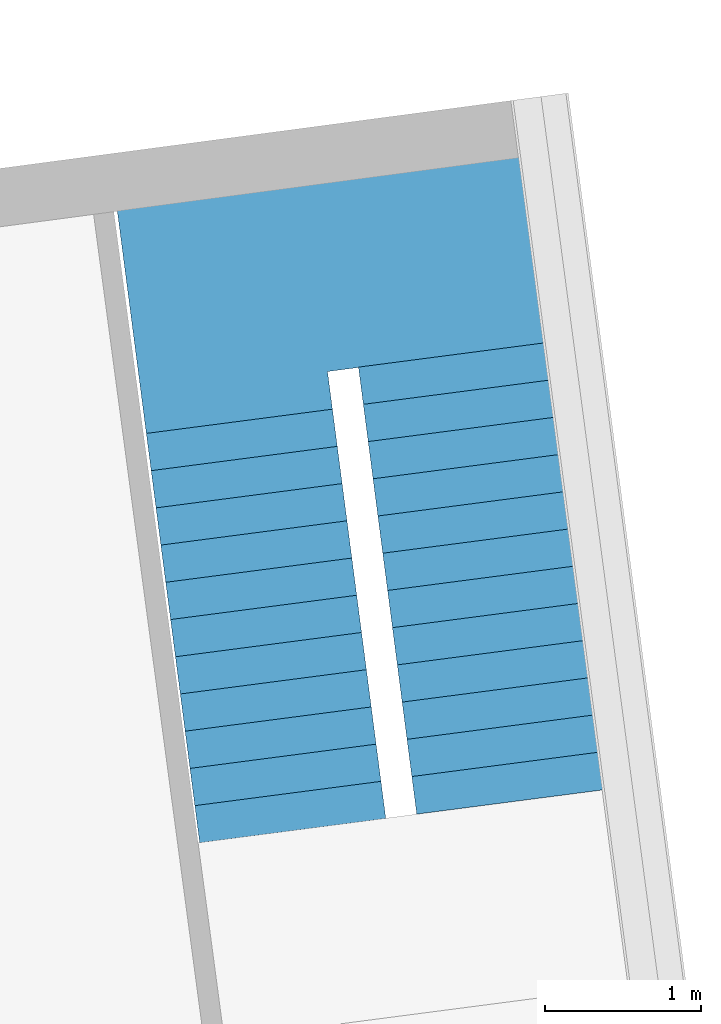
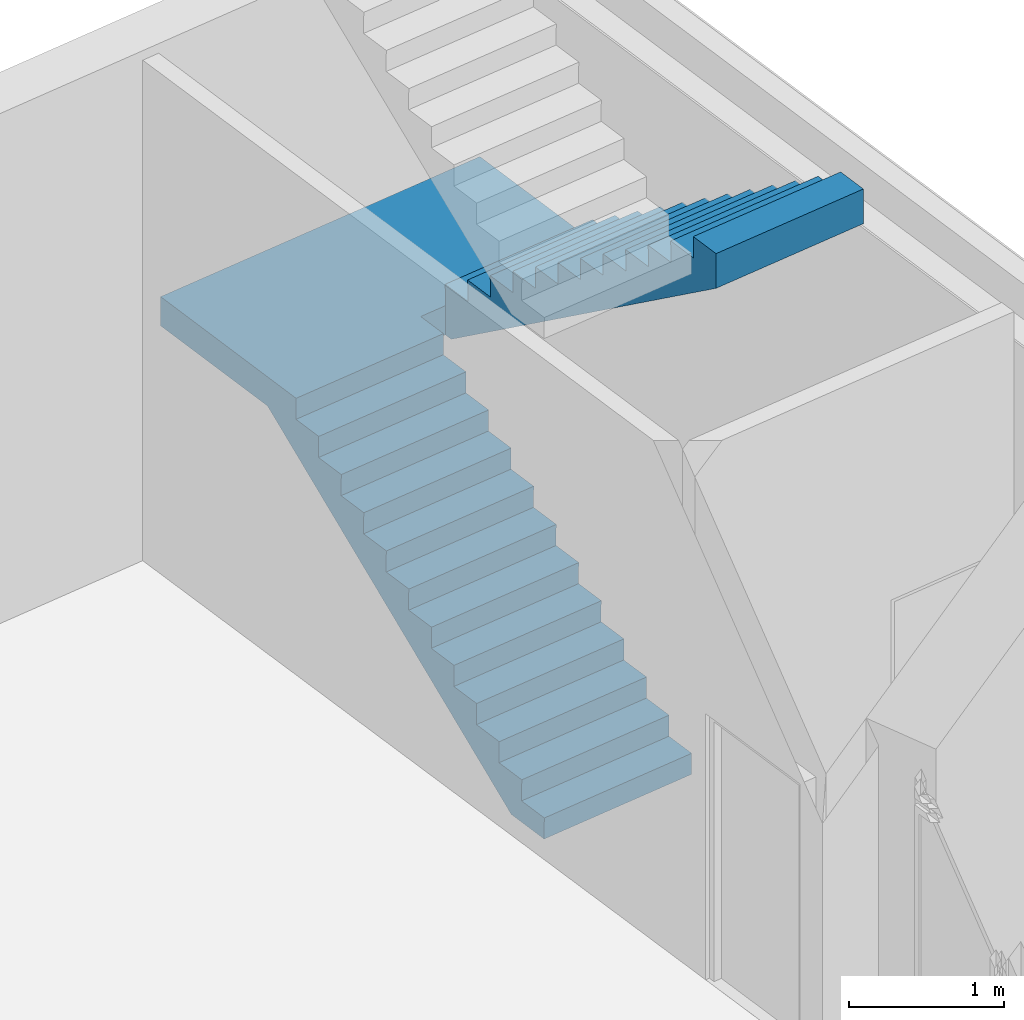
# One storey, part 15 of 17: 1 stair.
"""IFC2X3 building model written with IfcOpenShell, lengths in metres."""

from ifc_helpers import new_model, entity, si_unit, converted_unit, money_unit, direction, frame, origin_with_axes, place, context, subcontext, project, spatial, faceted_brep, material, element, save


model = new_model("IFC2X3")

# Units and contexts
model_context = context("Model", 3, precision=1e-05, world=origin_with_axes(), true_north=direction((0.0, 1.0)))
body_context = subcontext(model_context, "Body", "Model", "MODEL_VIEW")
ifc_project = project(units=[si_unit("LENGTHUNIT", "METRE"), si_unit("AREAUNIT", "SQUARE_METRE"), si_unit("VOLUMEUNIT", "CUBIC_METRE"), converted_unit("PLANEANGLEUNIT", "DEGREE", entity("IfcPlaneAngleMeasure", 0.0174532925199), si_unit("PLANEANGLEUNIT", "RADIAN"), dimensions=[0, 0, 0, 0, 0, 0, 0]), si_unit("SOLIDANGLEUNIT", "STERADIAN"), money_unit("EUR"), converted_unit("TIMEUNIT", "Year", entity("IfcTimeMeasure", 31556926.0), si_unit("TIMEUNIT", "SECOND"), dimensions=[0, 0, 0, 0, 0, 0, 0]), si_unit("MASSUNIT", "GRAM"), si_unit("THERMODYNAMICTEMPERATUREUNIT", "DEGREE_CELSIUS"), si_unit("LUMINOUSINTENSITYUNIT", "LUMEN")], contexts=[model_context])

# Site, building, storey
site_placement = place(None, origin_with_axes())
site = spatial("IfcSite", under=ifc_project, at=site_placement, Name="Undefined", CompositionType="ELEMENT")
building_placement = place(site_placement, origin_with_axes())
building = spatial("IfcBuilding", under=site, at=building_placement, Name="Undefined", CompositionType="ELEMENT")
storey_placement = place(building_placement, frame((0.0, 0.0, 9.425), z_axis=(0.0, 0.0, 1.0), x_axis=(1.0, 0.0, 0.0)))
storey = spatial("IfcBuildingStorey", under=building, at=storey_placement, Name="Mezzannine", CompositionType="ELEMENT", Elevation=9.425)

# Stair
ifc_material = material(Name="Concrete Block")
stair_placement = place(storey_placement, frame((64.973856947, 23.1091843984, 0.0), z_axis=(0.0, 0.0, 1.0), x_axis=(0.129312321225, -0.991603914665, 0.0)))
element("IfcStair", 1, at=stair_placement, inside=storey, material=ifc_material, Name="Stair_02", ObjectType="STAIR", ShapeType="NOTDEFINED", context=body_context, shape_type="Brep", body=[
    faceted_brep([(-0.349165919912, 0.0, 0.0), (-2.94295473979, 0.0, 1.7825), (-2.94295473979, 1.2, 1.7825), (-0.349165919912, 1.2, 0.0), (-0.02, 0.0, 0.0), (-0.02, 0.0, 0.137708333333), (-0.26, 0.0, 0.137708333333), (-0.26, 0.0, 0.305416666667), (-0.5, 0.0, 0.305416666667), (-0.5, 0.0, 0.473125), (-0.74, 0.0, 0.473125), (-0.74, 0.0, 0.640833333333), (-0.98, 0.0, 0.640833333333), (-0.98, 0.0, 0.808541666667), (-1.22, 0.0, 0.808541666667), (-1.22, 0.0, 0.97625), (-1.46, 0.0, 0.97625), (-1.46, 0.0, 1.14395833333), (-1.7, 0.0, 1.14395833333), (-1.7, 0.0, 1.31166666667), (-1.94, 0.0, 1.31166666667), (-1.94, 0.0, 1.479375), (-2.18, 0.0, 1.479375), (-2.18, 0.0, 1.64708333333), (-2.42, 0.0, 1.64708333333), (-2.42, 0.0, 1.81479166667), (-2.66, 0.0, 1.81479166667), (-2.66, 0.0, 1.9825), (-2.9, 0.0, 1.9825), (-4.08, 0.0, 1.9825), (-4.08, 0.0, 1.7825), (-4.08, 1.2, 1.7825), (-4.08, 1.2, 1.9825), (-2.9, 1.2, 1.9825), (-2.66, 1.2, 1.9825), (-2.66, 1.2, 1.81479166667), (-2.42, 1.2, 1.81479166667), (-2.42, 1.2, 1.64708333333), (-2.18, 1.2, 1.64708333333), (-2.18, 1.2, 1.479375), (-1.94, 1.2, 1.479375), (-1.94, 1.2, 1.31166666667), (-1.7, 1.2, 1.31166666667), (-1.7, 1.2, 1.14395833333), (-1.46, 1.2, 1.14395833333), (-1.46, 1.2, 0.97625), (-1.22, 1.2, 0.97625), (-1.22, 1.2, 0.808541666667), (-0.98, 1.2, 0.808541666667), (-0.98, 1.2, 0.640833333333), (-0.74, 1.2, 0.640833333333), (-0.74, 1.2, 0.473125), (-0.5, 1.2, 0.473125), (-0.5, 1.2, 0.305416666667), (-0.26, 1.2, 0.305416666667), (-0.26, 1.2, 0.137708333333), (-0.02, 1.2, 0.137708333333), (-0.02, 1.2, 0.0)], [[[0, 1, 2, 3]], [[0, 4, 5, 6, 7, 8, 9, 10, 11, 12, 13, 14, 15, 16, 17, 18, 19, 20, 21, 22, 23, 24, 25, 26, 27, 28, 29, 30, 1]], [[1, 30, 31, 2]], [[3, 2, 31, 32, 33, 34, 35, 36, 37, 38, 39, 40, 41, 42, 43, 44, 45, 46, 47, 48, 49, 50, 51, 52, 53, 54, 55, 56, 57]], [[4, 0, 3, 57]], [[5, 4, 57, 56]], [[6, 5, 56, 55]], [[7, 6, 55, 54]], [[8, 7, 54, 53]], [[9, 8, 53, 52]], [[10, 9, 52, 51]], [[11, 10, 51, 50]], [[12, 11, 50, 49]], [[13, 12, 49, 48]], [[14, 13, 48, 47]], [[15, 14, 47, 46]], [[16, 15, 46, 45]], [[17, 16, 45, 44]], [[18, 17, 44, 43]], [[19, 18, 43, 42]], [[20, 19, 42, 41]], [[21, 20, 41, 40]], [[22, 21, 40, 39]], [[23, 22, 39, 38]], [[24, 23, 38, 37]], [[25, 24, 37, 36]], [[26, 25, 36, 35]], [[27, 26, 35, 34]], [[28, 27, 34, 33]], [[29, 28, 33, 32]], [[30, 29, 32, 31]]]),
    faceted_brep([(-2.88, 1.2, 1.9825), (-2.88, 1.2, 1.7825), (-2.88, 1.4, 1.7825), (-2.88, 1.4, 1.9825), (-4.08, 1.2, 1.9825), (-4.08, 1.2, 1.7825), (-2.94295473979, 1.2, 1.7825), (-2.94295473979, 1.4, 1.7825), (-4.08, 1.4, 1.7825), (-4.08, 1.4, 1.9825)], [[[0, 1, 2, 3]], [[0, 4, 5, 6, 1]], [[1, 6, 7, 2]], [[3, 2, 7, 8, 9]], [[4, 0, 3, 9]], [[5, 4, 9, 8]], [[6, 5, 8, 7]]]),
    faceted_brep([(-2.88, 1.4, 1.9825), (-2.88, 1.4, 1.7825), (-2.88, 2.6, 1.7825), (-2.88, 2.6, 1.9825), (-4.08, 1.4, 1.9825), (-4.08, 1.4, 1.7825), (-4.08, 2.6, 1.7825), (-4.08, 2.6, 1.9825)], [[[0, 1, 2, 3]], [[0, 4, 5, 1]], [[1, 5, 6, 2]], [[3, 2, 6, 7]], [[4, 0, 3, 7]], [[5, 4, 7, 6]]]),
    faceted_brep([(-2.88, 1.4, 1.7825), (-2.88, 2.6, 1.7825), (-2.81704526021, 2.6, 1.7825), (-2.81704526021, 1.4, 1.7825), (-2.88, 1.4, 1.9825), (-2.88, 2.6, 1.9825), (-2.86, 2.6, 1.9825), (-2.86, 2.6, 2.15020833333), (-2.62, 2.6, 2.15020833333), (-2.62, 2.6, 2.31791666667), (-2.38, 2.6, 2.31791666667), (-2.38, 2.6, 2.485625), (-2.14, 2.6, 2.485625), (-2.14, 2.6, 2.65333333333), (-1.9, 2.6, 2.65333333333), (-1.9, 2.6, 2.82104166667), (-1.66, 2.6, 2.82104166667), (-1.66, 2.6, 2.98875), (-1.42, 2.6, 2.98875), (-1.42, 2.6, 3.15645833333), (-1.18, 2.6, 3.15645833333), (-1.18, 2.6, 3.32416666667), (-0.94, 2.6, 3.32416666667), (-0.94, 2.6, 3.491875), (-0.7, 2.6, 3.491875), (-0.7, 2.6, 3.65958333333), (-0.46, 2.6, 3.65958333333), (-0.46, 2.6, 3.82729166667), (-0.22, 2.6, 3.82729166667), (-0.22, 2.6, 3.995), (0.0, 2.6, 3.995), (0.0, 2.6, 3.75100818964), (0.0, 1.4, 3.75100818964), (0.0, 1.4, 3.995), (-0.22, 1.4, 3.995), (-0.22, 1.4, 3.82729166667), (-0.46, 1.4, 3.82729166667), (-0.46, 1.4, 3.65958333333), (-0.7, 1.4, 3.65958333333), (-0.7, 1.4, 3.491875), (-0.94, 1.4, 3.491875), (-0.94, 1.4, 3.32416666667), (-1.18, 1.4, 3.32416666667), (-1.18, 1.4, 3.15645833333), (-1.42, 1.4, 3.15645833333), (-1.42, 1.4, 2.98875), (-1.66, 1.4, 2.98875), (-1.66, 1.4, 2.82104166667), (-1.9, 1.4, 2.82104166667), (-1.9, 1.4, 2.65333333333), (-2.14, 1.4, 2.65333333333), (-2.14, 1.4, 2.485625), (-2.38, 1.4, 2.485625), (-2.38, 1.4, 2.31791666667), (-2.62, 1.4, 2.31791666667), (-2.62, 1.4, 2.15020833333), (-2.86, 1.4, 2.15020833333), (-2.86, 1.4, 1.9825)], [[[0, 1, 2, 3]], [[4, 5, 1, 0]], [[1, 5, 6, 7, 8, 9, 10, 11, 12, 13, 14, 15, 16, 17, 18, 19, 20, 21, 22, 23, 24, 25, 26, 27, 28, 29, 30, 31, 2]], [[3, 2, 31, 32]], [[0, 3, 32, 33, 34, 35, 36, 37, 38, 39, 40, 41, 42, 43, 44, 45, 46, 47, 48, 49, 50, 51, 52, 53, 54, 55, 56, 57, 4]], [[57, 6, 5, 4]], [[56, 7, 6, 57]], [[55, 8, 7, 56]], [[54, 9, 8, 55]], [[53, 10, 9, 54]], [[52, 11, 10, 53]], [[51, 12, 11, 52]], [[50, 13, 12, 51]], [[49, 14, 13, 50]], [[48, 15, 14, 49]], [[47, 16, 15, 48]], [[46, 17, 16, 47]], [[45, 18, 17, 46]], [[44, 19, 18, 45]], [[43, 20, 19, 44]], [[42, 21, 20, 43]], [[41, 22, 21, 42]], [[40, 23, 22, 41]], [[39, 24, 23, 40]], [[38, 25, 24, 39]], [[37, 26, 25, 38]], [[36, 27, 26, 37]], [[35, 28, 27, 36]], [[34, 29, 28, 35]], [[33, 30, 29, 34]], [[32, 31, 30, 33]]]),
    faceted_brep([(0.0, 0.0, 0.0), (-0.02, 0.0, 0.0), (-0.02, 1.2, 0.0), (0.0, 1.2, 0.0), (0.0, 0.0, 0.137708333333), (-0.02, 0.0, 0.137708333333), (-0.02, 1.2, 0.137708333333), (0.0, 1.2, 0.137708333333)], [[[0, 1, 2, 3]], [[0, 4, 5, 1]], [[1, 5, 6, 2]], [[3, 2, 6, 7]], [[4, 0, 3, 7]], [[5, 4, 7, 6]]]),
    faceted_brep([(-0.24, 0.0, 0.167708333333), (-0.26, 0.0, 0.167708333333), (-0.26, 1.2, 0.167708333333), (-0.24, 1.2, 0.167708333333), (-0.24, 0.0, 0.305416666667), (-0.26, 0.0, 0.305416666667), (-0.26, 1.2, 0.305416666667), (-0.24, 1.2, 0.305416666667)], [[[0, 1, 2, 3]], [[0, 4, 5, 1]], [[1, 5, 6, 2]], [[3, 2, 6, 7]], [[4, 0, 3, 7]], [[5, 4, 7, 6]]]),
    faceted_brep([(-0.48, 0.0, 0.335416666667), (-0.5, 0.0, 0.335416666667), (-0.5, 1.2, 0.335416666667), (-0.48, 1.2, 0.335416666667), (-0.48, 0.0, 0.473125), (-0.5, 0.0, 0.473125), (-0.5, 1.2, 0.473125), (-0.48, 1.2, 0.473125)], [[[0, 1, 2, 3]], [[0, 4, 5, 1]], [[1, 5, 6, 2]], [[3, 2, 6, 7]], [[4, 0, 3, 7]], [[5, 4, 7, 6]]]),
    faceted_brep([(-0.72, 0.0, 0.503125), (-0.74, 0.0, 0.503125), (-0.74, 1.2, 0.503125), (-0.72, 1.2, 0.503125), (-0.72, 0.0, 0.640833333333), (-0.74, 0.0, 0.640833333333), (-0.74, 1.2, 0.640833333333), (-0.72, 1.2, 0.640833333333)], [[[0, 1, 2, 3]], [[0, 4, 5, 1]], [[1, 5, 6, 2]], [[3, 2, 6, 7]], [[4, 0, 3, 7]], [[5, 4, 7, 6]]]),
    faceted_brep([(-0.96, 0.0, 0.670833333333), (-0.98, 0.0, 0.670833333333), (-0.98, 1.2, 0.670833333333), (-0.96, 1.2, 0.670833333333), (-0.96, 0.0, 0.808541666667), (-0.98, 0.0, 0.808541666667), (-0.98, 1.2, 0.808541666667), (-0.96, 1.2, 0.808541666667)], [[[0, 1, 2, 3]], [[0, 4, 5, 1]], [[1, 5, 6, 2]], [[3, 2, 6, 7]], [[4, 0, 3, 7]], [[5, 4, 7, 6]]]),
    faceted_brep([(-1.2, 0.0, 0.838541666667), (-1.22, 0.0, 0.838541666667), (-1.22, 1.2, 0.838541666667), (-1.2, 1.2, 0.838541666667), (-1.2, 0.0, 0.97625), (-1.22, 0.0, 0.97625), (-1.22, 1.2, 0.97625), (-1.2, 1.2, 0.97625)], [[[0, 1, 2, 3]], [[0, 4, 5, 1]], [[1, 5, 6, 2]], [[3, 2, 6, 7]], [[4, 0, 3, 7]], [[5, 4, 7, 6]]]),
    faceted_brep([(-1.44, 0.0, 1.00625), (-1.46, 0.0, 1.00625), (-1.46, 1.2, 1.00625), (-1.44, 1.2, 1.00625), (-1.44, 0.0, 1.14395833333), (-1.46, 0.0, 1.14395833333), (-1.46, 1.2, 1.14395833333), (-1.44, 1.2, 1.14395833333)], [[[0, 1, 2, 3]], [[0, 4, 5, 1]], [[1, 5, 6, 2]], [[3, 2, 6, 7]], [[4, 0, 3, 7]], [[5, 4, 7, 6]]]),
    faceted_brep([(-1.68, 0.0, 1.17395833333), (-1.7, 0.0, 1.17395833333), (-1.7, 1.2, 1.17395833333), (-1.68, 1.2, 1.17395833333), (-1.68, 0.0, 1.31166666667), (-1.7, 0.0, 1.31166666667), (-1.7, 1.2, 1.31166666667), (-1.68, 1.2, 1.31166666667)], [[[0, 1, 2, 3]], [[0, 4, 5, 1]], [[1, 5, 6, 2]], [[3, 2, 6, 7]], [[4, 0, 3, 7]], [[5, 4, 7, 6]]]),
    faceted_brep([(-1.92, 0.0, 1.34166666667), (-1.94, 0.0, 1.34166666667), (-1.94, 1.2, 1.34166666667), (-1.92, 1.2, 1.34166666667), (-1.92, 0.0, 1.479375), (-1.94, 0.0, 1.479375), (-1.94, 1.2, 1.479375), (-1.92, 1.2, 1.479375)], [[[0, 1, 2, 3]], [[0, 4, 5, 1]], [[1, 5, 6, 2]], [[3, 2, 6, 7]], [[4, 0, 3, 7]], [[5, 4, 7, 6]]]),
    faceted_brep([(-2.16, 0.0, 1.509375), (-2.18, 0.0, 1.509375), (-2.18, 1.2, 1.509375), (-2.16, 1.2, 1.509375), (-2.16, 0.0, 1.64708333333), (-2.18, 0.0, 1.64708333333), (-2.18, 1.2, 1.64708333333), (-2.16, 1.2, 1.64708333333)], [[[0, 1, 2, 3]], [[0, 4, 5, 1]], [[1, 5, 6, 2]], [[3, 2, 6, 7]], [[4, 0, 3, 7]], [[5, 4, 7, 6]]]),
    faceted_brep([(-2.4, 0.0, 1.67708333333), (-2.42, 0.0, 1.67708333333), (-2.42, 1.2, 1.67708333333), (-2.4, 1.2, 1.67708333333), (-2.4, 0.0, 1.81479166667), (-2.42, 0.0, 1.81479166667), (-2.42, 1.2, 1.81479166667), (-2.4, 1.2, 1.81479166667)], [[[0, 1, 2, 3]], [[0, 4, 5, 1]], [[1, 5, 6, 2]], [[3, 2, 6, 7]], [[4, 0, 3, 7]], [[5, 4, 7, 6]]]),
    faceted_brep([(-2.64, 0.0, 1.84479166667), (-2.66, 0.0, 1.84479166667), (-2.66, 1.2, 1.84479166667), (-2.64, 1.2, 1.84479166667), (-2.64, 0.0, 1.9825), (-2.66, 0.0, 1.9825), (-2.66, 1.2, 1.9825), (-2.64, 1.2, 1.9825)], [[[0, 1, 2, 3]], [[0, 4, 5, 1]], [[1, 5, 6, 2]], [[3, 2, 6, 7]], [[4, 0, 3, 7]], [[5, 4, 7, 6]]]),
    faceted_brep([(-2.88, 1.4, 2.0125), (-2.88, 2.6, 2.0125), (-2.86, 2.6, 2.0125), (-2.86, 1.4, 2.0125), (-2.88, 1.4, 2.15020833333), (-2.88, 2.6, 2.15020833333), (-2.86, 2.6, 2.15020833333), (-2.86, 1.4, 2.15020833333)], [[[0, 1, 2, 3]], [[4, 5, 1, 0]], [[1, 5, 6, 2]], [[3, 2, 6, 7]], [[0, 3, 7, 4]], [[7, 6, 5, 4]]]),
    faceted_brep([(-2.64, 1.4, 2.18020833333), (-2.64, 2.6, 2.18020833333), (-2.62, 2.6, 2.18020833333), (-2.62, 1.4, 2.18020833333), (-2.64, 1.4, 2.31791666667), (-2.64, 2.6, 2.31791666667), (-2.62, 2.6, 2.31791666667), (-2.62, 1.4, 2.31791666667)], [[[0, 1, 2, 3]], [[4, 5, 1, 0]], [[1, 5, 6, 2]], [[3, 2, 6, 7]], [[0, 3, 7, 4]], [[7, 6, 5, 4]]]),
    faceted_brep([(-2.4, 1.4, 2.34791666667), (-2.4, 2.6, 2.34791666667), (-2.38, 2.6, 2.34791666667), (-2.38, 1.4, 2.34791666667), (-2.4, 1.4, 2.485625), (-2.4, 2.6, 2.485625), (-2.38, 2.6, 2.485625), (-2.38, 1.4, 2.485625)], [[[0, 1, 2, 3]], [[4, 5, 1, 0]], [[1, 5, 6, 2]], [[3, 2, 6, 7]], [[0, 3, 7, 4]], [[7, 6, 5, 4]]]),
    faceted_brep([(-2.16, 1.4, 2.515625), (-2.16, 2.6, 2.515625), (-2.14, 2.6, 2.515625), (-2.14, 1.4, 2.515625), (-2.16, 1.4, 2.65333333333), (-2.16, 2.6, 2.65333333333), (-2.14, 2.6, 2.65333333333), (-2.14, 1.4, 2.65333333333)], [[[0, 1, 2, 3]], [[4, 5, 1, 0]], [[1, 5, 6, 2]], [[3, 2, 6, 7]], [[0, 3, 7, 4]], [[7, 6, 5, 4]]]),
    faceted_brep([(-1.92, 1.4, 2.68333333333), (-1.92, 2.6, 2.68333333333), (-1.9, 2.6, 2.68333333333), (-1.9, 1.4, 2.68333333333), (-1.92, 1.4, 2.82104166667), (-1.92, 2.6, 2.82104166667), (-1.9, 2.6, 2.82104166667), (-1.9, 1.4, 2.82104166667)], [[[0, 1, 2, 3]], [[4, 5, 1, 0]], [[1, 5, 6, 2]], [[3, 2, 6, 7]], [[0, 3, 7, 4]], [[7, 6, 5, 4]]]),
    faceted_brep([(-1.68, 1.4, 2.85104166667), (-1.68, 2.6, 2.85104166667), (-1.66, 2.6, 2.85104166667), (-1.66, 1.4, 2.85104166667), (-1.68, 1.4, 2.98875), (-1.68, 2.6, 2.98875), (-1.66, 2.6, 2.98875), (-1.66, 1.4, 2.98875)], [[[0, 1, 2, 3]], [[4, 5, 1, 0]], [[1, 5, 6, 2]], [[3, 2, 6, 7]], [[0, 3, 7, 4]], [[7, 6, 5, 4]]]),
    faceted_brep([(-1.44, 1.4, 3.01875), (-1.44, 2.6, 3.01875), (-1.42, 2.6, 3.01875), (-1.42, 1.4, 3.01875), (-1.44, 1.4, 3.15645833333), (-1.44, 2.6, 3.15645833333), (-1.42, 2.6, 3.15645833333), (-1.42, 1.4, 3.15645833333)], [[[0, 1, 2, 3]], [[4, 5, 1, 0]], [[1, 5, 6, 2]], [[3, 2, 6, 7]], [[0, 3, 7, 4]], [[7, 6, 5, 4]]]),
    faceted_brep([(-1.2, 1.4, 3.18645833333), (-1.2, 2.6, 3.18645833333), (-1.18, 2.6, 3.18645833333), (-1.18, 1.4, 3.18645833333), (-1.2, 1.4, 3.32416666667), (-1.2, 2.6, 3.32416666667), (-1.18, 2.6, 3.32416666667), (-1.18, 1.4, 3.32416666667)], [[[0, 1, 2, 3]], [[4, 5, 1, 0]], [[1, 5, 6, 2]], [[3, 2, 6, 7]], [[0, 3, 7, 4]], [[7, 6, 5, 4]]]),
    faceted_brep([(-0.96, 1.4, 3.35416666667), (-0.96, 2.6, 3.35416666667), (-0.94, 2.6, 3.35416666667), (-0.94, 1.4, 3.35416666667), (-0.96, 1.4, 3.491875), (-0.96, 2.6, 3.491875), (-0.94, 2.6, 3.491875), (-0.94, 1.4, 3.491875)], [[[0, 1, 2, 3]], [[4, 5, 1, 0]], [[1, 5, 6, 2]], [[3, 2, 6, 7]], [[0, 3, 7, 4]], [[7, 6, 5, 4]]]),
    faceted_brep([(-0.72, 1.4, 3.521875), (-0.72, 2.6, 3.521875), (-0.7, 2.6, 3.521875), (-0.7, 1.4, 3.521875), (-0.72, 1.4, 3.65958333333), (-0.72, 2.6, 3.65958333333), (-0.7, 2.6, 3.65958333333), (-0.7, 1.4, 3.65958333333)], [[[0, 1, 2, 3]], [[4, 5, 1, 0]], [[1, 5, 6, 2]], [[3, 2, 6, 7]], [[0, 3, 7, 4]], [[7, 6, 5, 4]]]),
    faceted_brep([(-0.48, 1.4, 3.68958333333), (-0.48, 2.6, 3.68958333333), (-0.46, 2.6, 3.68958333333), (-0.46, 1.4, 3.68958333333), (-0.48, 1.4, 3.82729166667), (-0.48, 2.6, 3.82729166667), (-0.46, 2.6, 3.82729166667), (-0.46, 1.4, 3.82729166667)], [[[0, 1, 2, 3]], [[4, 5, 1, 0]], [[1, 5, 6, 2]], [[3, 2, 6, 7]], [[0, 3, 7, 4]], [[7, 6, 5, 4]]]),
    faceted_brep([(-0.24, 1.4, 3.85729166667), (-0.24, 2.6, 3.85729166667), (-0.22, 2.6, 3.85729166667), (-0.22, 1.4, 3.85729166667), (-0.24, 1.4, 3.995), (-0.24, 2.6, 3.995), (-0.22, 2.6, 3.995), (-0.22, 1.4, 3.995)], [[[0, 1, 2, 3]], [[4, 5, 1, 0]], [[1, 5, 6, 2]], [[3, 2, 6, 7]], [[0, 3, 7, 4]], [[7, 6, 5, 4]]]),
    faceted_brep([(0.0025, 0.0, 0.137708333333), (-0.26, 0.0, 0.137708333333), (-0.26, 1.2, 0.137708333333), (0.0025, 1.2, 0.137708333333), (0.0025, 0.0, 0.167708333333), (-0.26, 0.0, 0.167708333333), (-0.26, 1.2, 0.167708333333), (0.0025, 1.2, 0.167708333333)], [[[0, 1, 2, 3]], [[0, 4, 5, 1]], [[1, 5, 6, 2]], [[3, 2, 6, 7]], [[4, 0, 3, 7]], [[5, 4, 7, 6]]]),
    faceted_brep([(-0.2375, 0.0, 0.305416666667), (-0.5, 0.0, 0.305416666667), (-0.5, 1.2, 0.305416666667), (-0.2375, 1.2, 0.305416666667), (-0.2375, 0.0, 0.335416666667), (-0.5, 0.0, 0.335416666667), (-0.5, 1.2, 0.335416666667), (-0.2375, 1.2, 0.335416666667)], [[[0, 1, 2, 3]], [[0, 4, 5, 1]], [[1, 5, 6, 2]], [[3, 2, 6, 7]], [[4, 0, 3, 7]], [[5, 4, 7, 6]]]),
    faceted_brep([(-0.4775, 0.0, 0.473125), (-0.74, 0.0, 0.473125), (-0.74, 1.2, 0.473125), (-0.4775, 1.2, 0.473125), (-0.4775, 0.0, 0.503125), (-0.74, 0.0, 0.503125), (-0.74, 1.2, 0.503125), (-0.4775, 1.2, 0.503125)], [[[0, 1, 2, 3]], [[0, 4, 5, 1]], [[1, 5, 6, 2]], [[3, 2, 6, 7]], [[4, 0, 3, 7]], [[5, 4, 7, 6]]]),
    faceted_brep([(-0.7175, 0.0, 0.640833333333), (-0.98, 0.0, 0.640833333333), (-0.98, 1.2, 0.640833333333), (-0.7175, 1.2, 0.640833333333), (-0.7175, 0.0, 0.670833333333), (-0.98, 0.0, 0.670833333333), (-0.98, 1.2, 0.670833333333), (-0.7175, 1.2, 0.670833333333)], [[[0, 1, 2, 3]], [[0, 4, 5, 1]], [[1, 5, 6, 2]], [[3, 2, 6, 7]], [[4, 0, 3, 7]], [[5, 4, 7, 6]]]),
    faceted_brep([(-0.9575, 0.0, 0.808541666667), (-1.22, 0.0, 0.808541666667), (-1.22, 1.2, 0.808541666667), (-0.9575, 1.2, 0.808541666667), (-0.9575, 0.0, 0.838541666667), (-1.22, 0.0, 0.838541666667), (-1.22, 1.2, 0.838541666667), (-0.9575, 1.2, 0.838541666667)], [[[0, 1, 2, 3]], [[0, 4, 5, 1]], [[1, 5, 6, 2]], [[3, 2, 6, 7]], [[4, 0, 3, 7]], [[5, 4, 7, 6]]]),
    faceted_brep([(-1.1975, 0.0, 0.97625), (-1.46, 0.0, 0.97625), (-1.46, 1.2, 0.97625), (-1.1975, 1.2, 0.97625), (-1.1975, 0.0, 1.00625), (-1.46, 0.0, 1.00625), (-1.46, 1.2, 1.00625), (-1.1975, 1.2, 1.00625)], [[[0, 1, 2, 3]], [[0, 4, 5, 1]], [[1, 5, 6, 2]], [[3, 2, 6, 7]], [[4, 0, 3, 7]], [[5, 4, 7, 6]]]),
    faceted_brep([(-1.4375, 0.0, 1.14395833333), (-1.7, 0.0, 1.14395833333), (-1.7, 1.2, 1.14395833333), (-1.4375, 1.2, 1.14395833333), (-1.4375, 0.0, 1.17395833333), (-1.7, 0.0, 1.17395833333), (-1.7, 1.2, 1.17395833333), (-1.4375, 1.2, 1.17395833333)], [[[0, 1, 2, 3]], [[0, 4, 5, 1]], [[1, 5, 6, 2]], [[3, 2, 6, 7]], [[4, 0, 3, 7]], [[5, 4, 7, 6]]]),
    faceted_brep([(-1.6775, 0.0, 1.31166666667), (-1.94, 0.0, 1.31166666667), (-1.94, 1.2, 1.31166666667), (-1.6775, 1.2, 1.31166666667), (-1.6775, 0.0, 1.34166666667), (-1.94, 0.0, 1.34166666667), (-1.94, 1.2, 1.34166666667), (-1.6775, 1.2, 1.34166666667)], [[[0, 1, 2, 3]], [[0, 4, 5, 1]], [[1, 5, 6, 2]], [[3, 2, 6, 7]], [[4, 0, 3, 7]], [[5, 4, 7, 6]]]),
    faceted_brep([(-1.9175, 0.0, 1.479375), (-2.18, 0.0, 1.479375), (-2.18, 1.2, 1.479375), (-1.9175, 1.2, 1.479375), (-1.9175, 0.0, 1.509375), (-2.18, 0.0, 1.509375), (-2.18, 1.2, 1.509375), (-1.9175, 1.2, 1.509375)], [[[0, 1, 2, 3]], [[0, 4, 5, 1]], [[1, 5, 6, 2]], [[3, 2, 6, 7]], [[4, 0, 3, 7]], [[5, 4, 7, 6]]]),
    faceted_brep([(-2.1575, 0.0, 1.64708333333), (-2.42, 0.0, 1.64708333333), (-2.42, 1.2, 1.64708333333), (-2.1575, 1.2, 1.64708333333), (-2.1575, 0.0, 1.67708333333), (-2.42, 0.0, 1.67708333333), (-2.42, 1.2, 1.67708333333), (-2.1575, 1.2, 1.67708333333)], [[[0, 1, 2, 3]], [[0, 4, 5, 1]], [[1, 5, 6, 2]], [[3, 2, 6, 7]], [[4, 0, 3, 7]], [[5, 4, 7, 6]]]),
    faceted_brep([(-2.3975, 0.0, 1.81479166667), (-2.66, 0.0, 1.81479166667), (-2.66, 1.2, 1.81479166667), (-2.3975, 1.2, 1.81479166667), (-2.3975, 0.0, 1.84479166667), (-2.66, 0.0, 1.84479166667), (-2.66, 1.2, 1.84479166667), (-2.3975, 1.2, 1.84479166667)], [[[0, 1, 2, 3]], [[0, 4, 5, 1]], [[1, 5, 6, 2]], [[3, 2, 6, 7]], [[4, 0, 3, 7]], [[5, 4, 7, 6]]]),
    faceted_brep([(-2.6375, 0.0, 1.9825), (-2.88, 0.0, 1.9825), (-2.88, 1.2, 1.9825), (-2.6375, 1.2, 1.9825), (-2.6375, 0.0, 2.0125), (-2.88, 0.0, 2.0125), (-2.88, 1.2, 2.0125), (-2.6375, 1.2, 2.0125)], [[[0, 1, 2, 3]], [[0, 4, 5, 1]], [[1, 5, 6, 2]], [[3, 2, 6, 7]], [[4, 0, 3, 7]], [[5, 4, 7, 6]]]),
    faceted_brep([(-4.08, 0.0, 1.9825), (-4.08, 0.0, 2.0125), (-4.08, 1.4, 2.0125), (-4.08, 1.4, 1.9825), (-2.88, 0.0, 1.9825), (-2.88, 0.0, 2.0125), (-2.88, 1.4, 2.0125), (-2.88, 1.4, 1.9825)], [[[0, 1, 2, 3]], [[0, 4, 5, 1]], [[1, 5, 6, 2]], [[3, 2, 6, 7]], [[4, 0, 3, 7]], [[5, 4, 7, 6]]]),
    faceted_brep([(-4.08, 1.4, 1.9825), (-4.08, 1.4, 2.0125), (-4.08, 2.6, 2.0125), (-4.08, 2.6, 1.9825), (-2.86, 1.4, 1.9825), (-2.86, 1.4, 2.0125), (-2.86, 2.6, 2.0125), (-2.86, 2.6, 1.9825)], [[[0, 1, 2, 3]], [[0, 4, 5, 1]], [[1, 5, 6, 2]], [[3, 2, 6, 7]], [[4, 0, 3, 7]], [[5, 4, 7, 6]]]),
    faceted_brep([(-2.8825, 1.4, 2.15020833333), (-2.8825, 2.6, 2.15020833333), (-2.62, 2.6, 2.15020833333), (-2.62, 1.4, 2.15020833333), (-2.8825, 1.4, 2.18020833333), (-2.8825, 2.6, 2.18020833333), (-2.62, 2.6, 2.18020833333), (-2.62, 1.4, 2.18020833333)], [[[0, 1, 2, 3]], [[4, 5, 1, 0]], [[1, 5, 6, 2]], [[3, 2, 6, 7]], [[0, 3, 7, 4]], [[7, 6, 5, 4]]]),
    faceted_brep([(-2.6425, 1.4, 2.31791666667), (-2.6425, 2.6, 2.31791666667), (-2.38, 2.6, 2.31791666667), (-2.38, 1.4, 2.31791666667), (-2.6425, 1.4, 2.34791666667), (-2.6425, 2.6, 2.34791666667), (-2.38, 2.6, 2.34791666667), (-2.38, 1.4, 2.34791666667)], [[[0, 1, 2, 3]], [[4, 5, 1, 0]], [[1, 5, 6, 2]], [[3, 2, 6, 7]], [[0, 3, 7, 4]], [[7, 6, 5, 4]]]),
    faceted_brep([(-2.4025, 1.4, 2.485625), (-2.4025, 2.6, 2.485625), (-2.14, 2.6, 2.485625), (-2.14, 1.4, 2.485625), (-2.4025, 1.4, 2.515625), (-2.4025, 2.6, 2.515625), (-2.14, 2.6, 2.515625), (-2.14, 1.4, 2.515625)], [[[0, 1, 2, 3]], [[4, 5, 1, 0]], [[1, 5, 6, 2]], [[3, 2, 6, 7]], [[0, 3, 7, 4]], [[7, 6, 5, 4]]]),
    faceted_brep([(-2.1625, 1.4, 2.65333333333), (-2.1625, 2.6, 2.65333333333), (-1.9, 2.6, 2.65333333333), (-1.9, 1.4, 2.65333333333), (-2.1625, 1.4, 2.68333333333), (-2.1625, 2.6, 2.68333333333), (-1.9, 2.6, 2.68333333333), (-1.9, 1.4, 2.68333333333)], [[[0, 1, 2, 3]], [[4, 5, 1, 0]], [[1, 5, 6, 2]], [[3, 2, 6, 7]], [[0, 3, 7, 4]], [[7, 6, 5, 4]]]),
    faceted_brep([(-1.9225, 1.4, 2.82104166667), (-1.9225, 2.6, 2.82104166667), (-1.66, 2.6, 2.82104166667), (-1.66, 1.4, 2.82104166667), (-1.9225, 1.4, 2.85104166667), (-1.9225, 2.6, 2.85104166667), (-1.66, 2.6, 2.85104166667), (-1.66, 1.4, 2.85104166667)], [[[0, 1, 2, 3]], [[4, 5, 1, 0]], [[1, 5, 6, 2]], [[3, 2, 6, 7]], [[0, 3, 7, 4]], [[7, 6, 5, 4]]]),
    faceted_brep([(-1.6825, 1.4, 2.98875), (-1.6825, 2.6, 2.98875), (-1.42, 2.6, 2.98875), (-1.42, 1.4, 2.98875), (-1.6825, 1.4, 3.01875), (-1.6825, 2.6, 3.01875), (-1.42, 2.6, 3.01875), (-1.42, 1.4, 3.01875)], [[[0, 1, 2, 3]], [[4, 5, 1, 0]], [[1, 5, 6, 2]], [[3, 2, 6, 7]], [[0, 3, 7, 4]], [[7, 6, 5, 4]]]),
    faceted_brep([(-1.4425, 1.4, 3.15645833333), (-1.4425, 2.6, 3.15645833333), (-1.18, 2.6, 3.15645833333), (-1.18, 1.4, 3.15645833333), (-1.4425, 1.4, 3.18645833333), (-1.4425, 2.6, 3.18645833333), (-1.18, 2.6, 3.18645833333), (-1.18, 1.4, 3.18645833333)], [[[0, 1, 2, 3]], [[4, 5, 1, 0]], [[1, 5, 6, 2]], [[3, 2, 6, 7]], [[0, 3, 7, 4]], [[7, 6, 5, 4]]]),
    faceted_brep([(-1.2025, 1.4, 3.32416666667), (-1.2025, 2.6, 3.32416666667), (-0.94, 2.6, 3.32416666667), (-0.94, 1.4, 3.32416666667), (-1.2025, 1.4, 3.35416666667), (-1.2025, 2.6, 3.35416666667), (-0.94, 2.6, 3.35416666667), (-0.94, 1.4, 3.35416666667)], [[[0, 1, 2, 3]], [[4, 5, 1, 0]], [[1, 5, 6, 2]], [[3, 2, 6, 7]], [[0, 3, 7, 4]], [[7, 6, 5, 4]]]),
    faceted_brep([(-0.9625, 1.4, 3.491875), (-0.9625, 2.6, 3.491875), (-0.7, 2.6, 3.491875), (-0.7, 1.4, 3.491875), (-0.9625, 1.4, 3.521875), (-0.9625, 2.6, 3.521875), (-0.7, 2.6, 3.521875), (-0.7, 1.4, 3.521875)], [[[0, 1, 2, 3]], [[4, 5, 1, 0]], [[1, 5, 6, 2]], [[3, 2, 6, 7]], [[0, 3, 7, 4]], [[7, 6, 5, 4]]]),
    faceted_brep([(-0.7225, 1.4, 3.65958333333), (-0.7225, 2.6, 3.65958333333), (-0.46, 2.6, 3.65958333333), (-0.46, 1.4, 3.65958333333), (-0.7225, 1.4, 3.68958333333), (-0.7225, 2.6, 3.68958333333), (-0.46, 2.6, 3.68958333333), (-0.46, 1.4, 3.68958333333)], [[[0, 1, 2, 3]], [[4, 5, 1, 0]], [[1, 5, 6, 2]], [[3, 2, 6, 7]], [[0, 3, 7, 4]], [[7, 6, 5, 4]]]),
    faceted_brep([(-0.4825, 1.4, 3.82729166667), (-0.4825, 2.6, 3.82729166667), (-0.22, 2.6, 3.82729166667), (-0.22, 1.4, 3.82729166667), (-0.4825, 1.4, 3.85729166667), (-0.4825, 2.6, 3.85729166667), (-0.22, 2.6, 3.85729166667), (-0.22, 1.4, 3.85729166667)], [[[0, 1, 2, 3]], [[4, 5, 1, 0]], [[1, 5, 6, 2]], [[3, 2, 6, 7]], [[0, 3, 7, 4]], [[7, 6, 5, 4]]]),
    faceted_brep([(-0.2425, 1.4, 3.995), (-0.2425, 2.6, 3.995), (0.0, 2.6, 3.995), (0.0, 1.4, 3.995), (-0.2425, 1.4, 4.025), (-0.2425, 2.6, 4.025), (0.0, 2.6, 4.025), (0.0, 1.4, 4.025)], [[[0, 1, 2, 3]], [[4, 5, 1, 0]], [[1, 5, 6, 2]], [[3, 2, 6, 7]], [[0, 3, 7, 4]], [[7, 6, 5, 4]]]),
])

save(model, "model.ifc")
